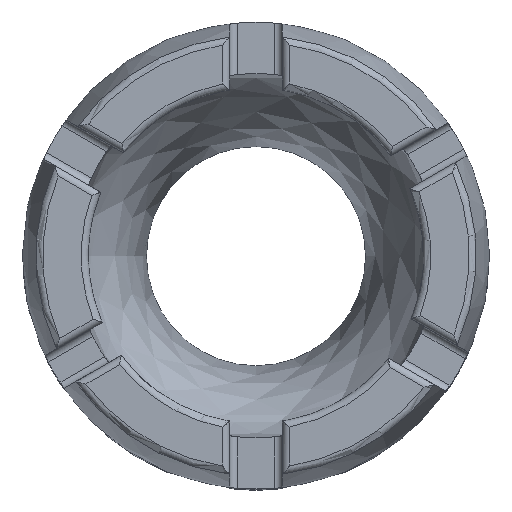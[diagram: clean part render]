
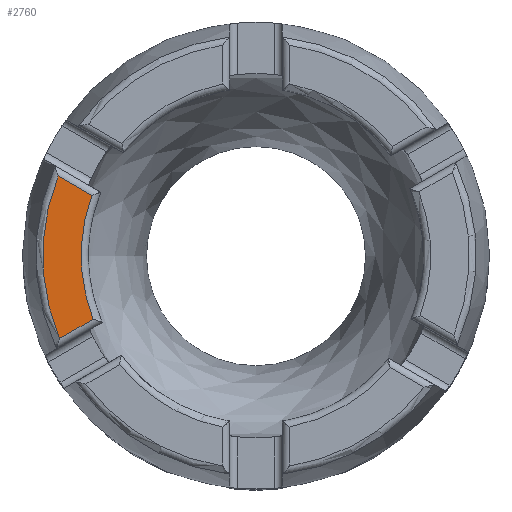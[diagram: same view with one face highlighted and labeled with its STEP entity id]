
A CAD part, top view. The second image highlights one B-rep face of the part: STEP entity #2760.
In plain terms, the highlighted planar face has unit normal (0, 0, 1).
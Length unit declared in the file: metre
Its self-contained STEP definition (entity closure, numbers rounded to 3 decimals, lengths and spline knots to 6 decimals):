
#88=LINE('',#5135,#233);
#89=LINE('',#5139,#234);
#233=VECTOR('',#3275,1.);
#234=VECTOR('',#3278,1.);
#376=PLANE('',#2978);
#844=ORIENTED_EDGE('',*,*,#1749,.T.);
#845=ORIENTED_EDGE('',*,*,#1750,.T.);
#846=ORIENTED_EDGE('',*,*,#1751,.T.);
#847=ORIENTED_EDGE('',*,*,#1752,.T.);
#1749=EDGE_CURVE('',#2200,#2201,#2388,.T.);
#1750=EDGE_CURVE('',#2201,#2202,#88,.F.);
#1751=EDGE_CURVE('',#2202,#2203,#2389,.F.);
#1752=EDGE_CURVE('',#2203,#2200,#89,.F.);
#2200=VERTEX_POINT('',#5133);
#2201=VERTEX_POINT('',#5134);
#2202=VERTEX_POINT('',#5136);
#2203=VERTEX_POINT('',#5138);
#2388=CIRCLE('',#2979,0.011964);
#2389=CIRCLE('',#2980,0.014591);
#2432=EDGE_LOOP('',(#844,#845,#846,#847));
#2593=FACE_BOUND('',#2432,.T.);
#2760=ADVANCED_FACE('',(#2593),#376,.F.);
#2978=AXIS2_PLACEMENT_3D('',#5131,#3271,#3272);
#2979=AXIS2_PLACEMENT_3D('',#5132,#3273,#3274);
#2980=AXIS2_PLACEMENT_3D('',#5137,#3276,#3277);
#3271=DIRECTION('',(0.,0.,-1.));
#3272=DIRECTION('',(-1.,0.,0.));
#3273=DIRECTION('',(0.,0.,-1.));
#3274=DIRECTION('',(-1.,0.,0.));
#3275=DIRECTION('',(0.866,-0.5,0.));
#3276=DIRECTION('',(0.,0.,-1.));
#3277=DIRECTION('',(-1.,0.,0.));
#3278=DIRECTION('',(-0.866,-0.5,0.));
#5131=CARTESIAN_POINT('',(-0.013108,0.,0.025));
#5132=CARTESIAN_POINT('',(0.,0.,0.025));
#5133=CARTESIAN_POINT('',(-0.011143,-0.004355,0.025));
#5134=CARTESIAN_POINT('',(-0.011233,0.004118,0.025));
#5135=CARTESIAN_POINT('',(-0.010856,0.0039,0.025));
#5136=CARTESIAN_POINT('',(-0.013536,0.005448,0.025));
#5137=CARTESIAN_POINT('',(0.,0.,0.025));
#5138=CARTESIAN_POINT('',(-0.01344,-0.005681,0.025));
#5139=CARTESIAN_POINT('',(-0.010731,-0.004117,0.025));
